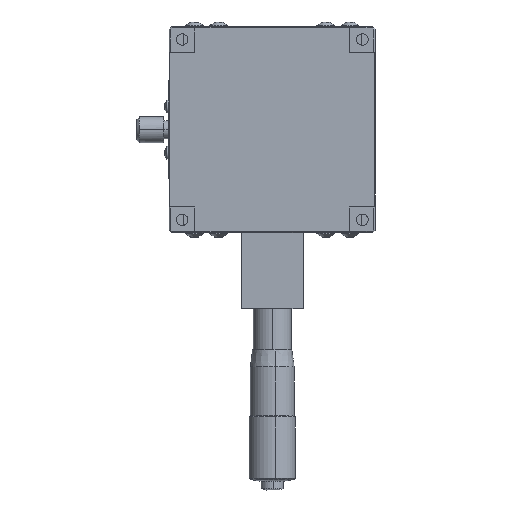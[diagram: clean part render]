
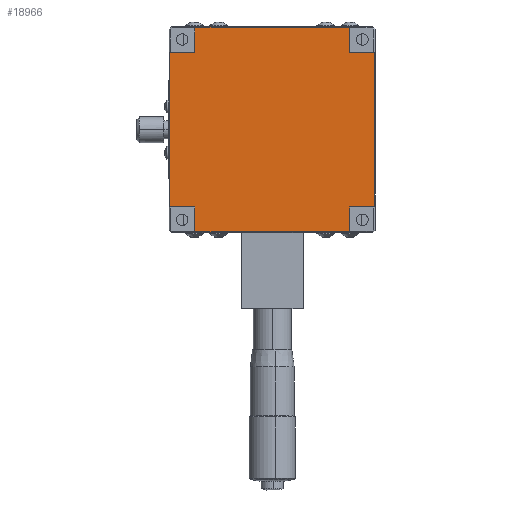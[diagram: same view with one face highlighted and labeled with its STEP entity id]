
A CAD part, front view. The second image highlights one B-rep face of the part: STEP entity #18966.
In plain terms, the highlighted planar face has unit normal (0, -1, 0).
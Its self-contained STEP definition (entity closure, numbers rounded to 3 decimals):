
#85 = ORIENTED_EDGE ( 'NONE', *, *, #2018, .T. ) ;
#1464 = VECTOR ( 'NONE', #7490, 1000. ) ;
#1468 = VECTOR ( 'NONE', #7484, 1000. ) ;
#1469 = VECTOR ( 'NONE', #7478, 1000. ) ;
#1471 = VECTOR ( 'NONE', #7469, 1000. ) ;
#1474 = VECTOR ( 'NONE', #7466, 1000. ) ;
#1475 = VECTOR ( 'NONE', #7460, 1000. ) ;
#1477 = VECTOR ( 'NONE', #7451, 1000. ) ;
#1480 = VECTOR ( 'NONE', #7448, 1000. ) ;
#1481 = VECTOR ( 'NONE', #7442, 1000. ) ;
#1483 = VECTOR ( 'NONE', #7433, 1000. ) ;
#1485 = VECTOR ( 'NONE', #7430, 1000. ) ;
#1487 = VECTOR ( 'NONE', #7425, 1000. ) ;
#2018 = EDGE_CURVE ( 'NONE', #12353, #11756, #7413, .T. ) ;
#2020 = EDGE_CURVE ( 'NONE', #2776, #12353, #7421, .T. ) ;
#2021 = EDGE_CURVE ( 'NONE', #2730, #2776, #7431, .T. ) ;
#2024 = EDGE_CURVE ( 'NONE', #2835, #2730, #7427, .T. ) ;
#2026 = EDGE_CURVE ( 'NONE', #12371, #2835, #7435, .T. ) ;
#2027 = EDGE_CURVE ( 'NONE', #11795, #12371, #7449, .T. ) ;
#2030 = EDGE_CURVE ( 'NONE', #11785, #11795, #7444, .T. ) ;
#2032 = EDGE_CURVE ( 'NONE', #11810, #11785, #7453, .T. ) ;
#2033 = EDGE_CURVE ( 'NONE', #11774, #11810, #7467, .T. ) ;
#2036 = EDGE_CURVE ( 'NONE', #11765, #11774, #7462, .T. ) ;
#2038 = EDGE_CURVE ( 'NONE', #2735, #11765, #7471, .T. ) ;
#2040 = EDGE_CURVE ( 'NONE', #11756, #2735, #7488, .T. ) ;
#2730 = VERTEX_POINT ( 'NONE', #4987 ) ;
#2735 = VERTEX_POINT ( 'NONE', #4997 ) ;
#2776 = VERTEX_POINT ( 'NONE', #5078 ) ;
#2835 = VERTEX_POINT ( 'NONE', #5181 ) ;
#3607 = CARTESIAN_POINT ( 'NONE',  ( 10., 0., -46.5 ) ) ;
#3625 = CARTESIAN_POINT ( 'NONE',  ( 10., 0., 23.2 ) ) ;
#4987 = CARTESIAN_POINT ( 'NONE',  ( 0.3, 0., -36.8 ) ) ;
#4997 = CARTESIAN_POINT ( 'NONE',  ( 70., 0., -36.8 ) ) ;
#5078 = CARTESIAN_POINT ( 'NONE',  ( 10., 0., -36.8 ) ) ;
#5181 = CARTESIAN_POINT ( 'NONE',  ( 0.3, 0., 23.2 ) ) ;
#7413 = LINE ( 'NONE', #7423, #1487 ) ;
#7421 = LINE ( 'NONE', #7429, #1485 ) ;
#7423 = CARTESIAN_POINT ( 'NONE',  ( 70., 0., -46.5 ) ) ;
#7425 = DIRECTION ( 'NONE',  ( 1., 0., 0. ) ) ;
#7427 = LINE ( 'NONE', #7441, #1481 ) ;
#7429 = CARTESIAN_POINT ( 'NONE',  ( 10., 0., -55.307 ) ) ;
#7430 = DIRECTION ( 'NONE',  ( 0., 0., -1. ) ) ;
#7431 = LINE ( 'NONE', #7432, #1483 ) ;
#7432 = CARTESIAN_POINT ( 'NONE',  ( 70., 0., -36.8 ) ) ;
#7433 = DIRECTION ( 'NONE',  ( 1., 0., 0. ) ) ;
#7435 = LINE ( 'NONE', #7447, #1480 ) ;
#7441 = CARTESIAN_POINT ( 'NONE',  ( 0.3, 0., -55.307 ) ) ;
#7442 = DIRECTION ( 'NONE',  ( 0., 0., -1. ) ) ;
#7444 = LINE ( 'NONE', #7459, #1475 ) ;
#7447 = CARTESIAN_POINT ( 'NONE',  ( 70., 0., 23.2 ) ) ;
#7448 = DIRECTION ( 'NONE',  ( -1., 0., 0. ) ) ;
#7449 = LINE ( 'NONE', #7450, #1477 ) ;
#7450 = CARTESIAN_POINT ( 'NONE',  ( 10., 0., -55.307 ) ) ;
#7451 = DIRECTION ( 'NONE',  ( 0., 0., -1. ) ) ;
#7453 = LINE ( 'NONE', #7465, #1474 ) ;
#7459 = CARTESIAN_POINT ( 'NONE',  ( 70., 0., 32.9 ) ) ;
#7460 = DIRECTION ( 'NONE',  ( -1., 0., 0. ) ) ;
#7462 = LINE ( 'NONE', #7477, #1469 ) ;
#7465 = CARTESIAN_POINT ( 'NONE',  ( 70., 0., -55.307 ) ) ;
#7466 = DIRECTION ( 'NONE',  ( 0., 0., 1. ) ) ;
#7467 = LINE ( 'NONE', #7468, #1471 ) ;
#7468 = CARTESIAN_POINT ( 'NONE',  ( 70., 0., 23.2 ) ) ;
#7469 = DIRECTION ( 'NONE',  ( -1., 0., 0. ) ) ;
#7471 = LINE ( 'NONE', #7483, #1468 ) ;
#7477 = CARTESIAN_POINT ( 'NONE',  ( 79.7, 0., -55.307 ) ) ;
#7478 = DIRECTION ( 'NONE',  ( 0., 0., 1. ) ) ;
#7483 = CARTESIAN_POINT ( 'NONE',  ( 70., 0., -36.8 ) ) ;
#7484 = DIRECTION ( 'NONE',  ( 1., 0., 0. ) ) ;
#7488 = LINE ( 'NONE', #7489, #1464 ) ;
#7489 = CARTESIAN_POINT ( 'NONE',  ( 70., 0., -55.307 ) ) ;
#7490 = DIRECTION ( 'NONE',  ( 0., 0., 1. ) ) ;
#7926 = CARTESIAN_POINT ( 'NONE',  ( 70., 0., -55.307 ) ) ;
#7930 = FACE_OUTER_BOUND ( 'NONE', #16580, .T. ) ;
#7931 = PLANE ( 'NONE',  #14146 ) ;
#7933 = DIRECTION ( 'NONE',  ( 0., -1., 0. ) ) ;
#7934 = DIRECTION ( 'NONE',  ( 0., 0., -1. ) ) ;
#9551 = CARTESIAN_POINT ( 'NONE',  ( 70., 0., -46.5 ) ) ;
#9560 = CARTESIAN_POINT ( 'NONE',  ( 79.7, 0., -36.8 ) ) ;
#9569 = CARTESIAN_POINT ( 'NONE',  ( 79.7, 0., 23.2 ) ) ;
#9580 = CARTESIAN_POINT ( 'NONE',  ( 70., 0., 32.9 ) ) ;
#9590 = CARTESIAN_POINT ( 'NONE',  ( 10., 0., 32.9 ) ) ;
#9605 = CARTESIAN_POINT ( 'NONE',  ( 70., 0., 23.2 ) ) ;
#11756 = VERTEX_POINT ( 'NONE', #9551 ) ;
#11765 = VERTEX_POINT ( 'NONE', #9560 ) ;
#11774 = VERTEX_POINT ( 'NONE', #9569 ) ;
#11785 = VERTEX_POINT ( 'NONE', #9580 ) ;
#11795 = VERTEX_POINT ( 'NONE', #9590 ) ;
#11810 = VERTEX_POINT ( 'NONE', #9605 ) ;
#12353 = VERTEX_POINT ( 'NONE', #3607 ) ;
#12371 = VERTEX_POINT ( 'NONE', #3625 ) ;
#14146 = AXIS2_PLACEMENT_3D ( 'NONE', #7926, #7933, #7934 ) ;
#16580 = EDGE_LOOP ( 'NONE', ( #17424, #85, #17433, #17430, #17438, #17443, #17444, #17434, #17448, #17471, #17466, #17461 ) ) ;
#17424 = ORIENTED_EDGE ( 'NONE', *, *, #2020, .T. ) ;
#17430 = ORIENTED_EDGE ( 'NONE', *, *, #2038, .T. ) ;
#17433 = ORIENTED_EDGE ( 'NONE', *, *, #2040, .T. ) ;
#17434 = ORIENTED_EDGE ( 'NONE', *, *, #2030, .T. ) ;
#17438 = ORIENTED_EDGE ( 'NONE', *, *, #2036, .T. ) ;
#17443 = ORIENTED_EDGE ( 'NONE', *, *, #2033, .T. ) ;
#17444 = ORIENTED_EDGE ( 'NONE', *, *, #2032, .T. ) ;
#17448 = ORIENTED_EDGE ( 'NONE', *, *, #2027, .T. ) ;
#17461 = ORIENTED_EDGE ( 'NONE', *, *, #2021, .T. ) ;
#17466 = ORIENTED_EDGE ( 'NONE', *, *, #2024, .T. ) ;
#17471 = ORIENTED_EDGE ( 'NONE', *, *, #2026, .T. ) ;
#18966 = ADVANCED_FACE ( 'NONE', ( #7930 ), #7931, .T. ) ;
